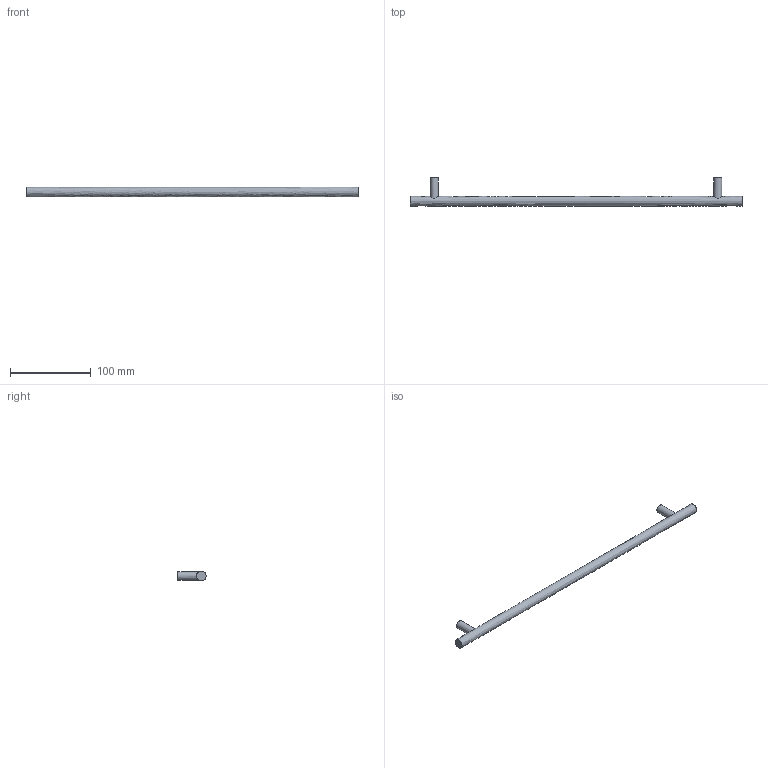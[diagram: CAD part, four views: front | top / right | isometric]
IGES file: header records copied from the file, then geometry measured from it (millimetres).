
Start section: Data from Parasolid IGES Translator 15.0.47, Copyright(c) 2006 Siemens P LM Software. All Rights Reserved.
Global section: file name: 9071023.igs; native system:  By UGS Corp.; preprocessor: XPlus GENERIC/IGES 3.0; author: Noname; organization: Noname; date: 20140122.181324; units: millimetre
Bounding box: 412 x 35 x 12 mm (x, y, z)
Surface area: 17563.6 mm2 (no closed solid volume)
Topology: 0 solids, 0 shells, 11 faces, 30 edges, 22 vertices
Faces by surface type: extrusion 6, revolution 5
